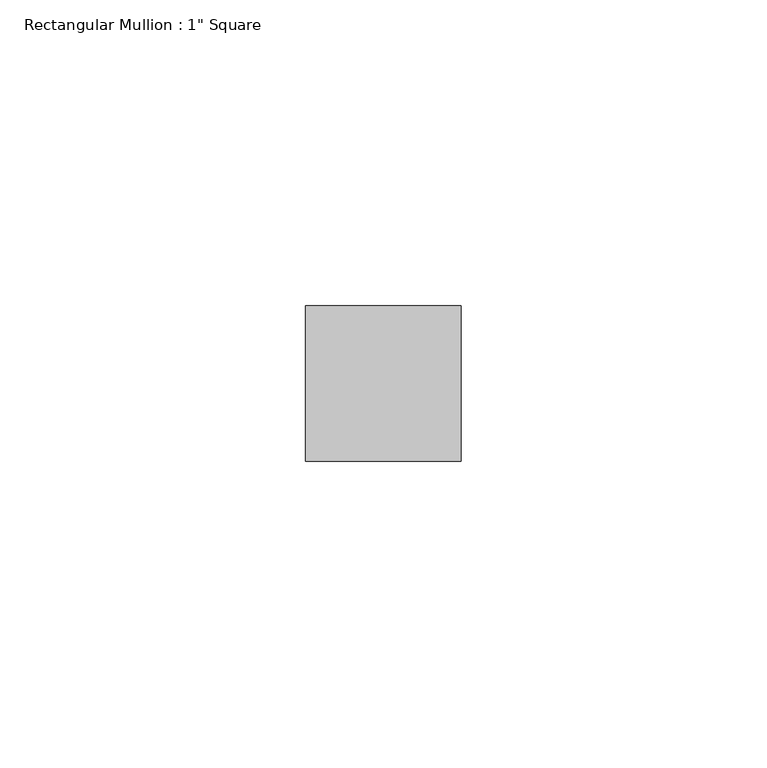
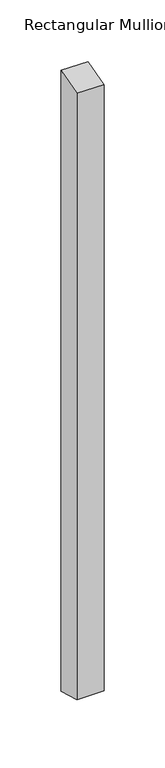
"""IFC4 building model written with IfcOpenShell, lengths in millimetres: member geometry."""

from ifc_helpers import new_model, si_unit, origin, place, context, project, spatial, faceted_brep, source, transform, mapped, element, save


def member_65ac7dc4(model_context):
    return source(origin(), model_context, "Body", "Brep", [
        faceted_brep([(-25.4, 12.7, 3.8348514), (0.0, 12.7, 3.707897), (0.0, 12.7, -612.9407987), (-25.4, 12.7, -613.0551841), (-25.4, -12.7, -3.5809426), (-25.4, -12.7, -606.3735867), (0.0, -12.7, -3.707897), (0.0, -12.7, -606.2592013)], [[[0, 1, 2, 3]], [[4, 0, 3, 5]], [[6, 4, 5, 7]], [[1, 6, 7, 2]], [[1, 0, 4, 6]], [[2, 7, 5, 3]]]),
    ])


if __name__ == "__main__":
    model = new_model("IFC4")
    model_context = context("Model", 3, world=origin())
    ifc_project = project(units=[si_unit("LENGTHUNIT", "METRE", prefix="MILLI")], contexts=[model_context])
    site = spatial("IfcSite", under=ifc_project)
    building = spatial("IfcBuilding", under=site)
    placement = place(None, origin())
    member_shape = member_65ac7dc4(model_context)
    element("IfcMember", 1, ObjectType="Rectangular Mullion : 1\" Square", at=placement, inside=building, context=model_context, shape_type="MappedRepresentation", body=[
        mapped(member_shape, transform((0.0, 0.0, 0.0), x_axis=(1.0, 0.0, 0.0), y_axis=(0.0, 1.0, 0.0), z_axis=(0.0, 0.0, 1.0))),
    ])
    save(model, "model.ifc")
